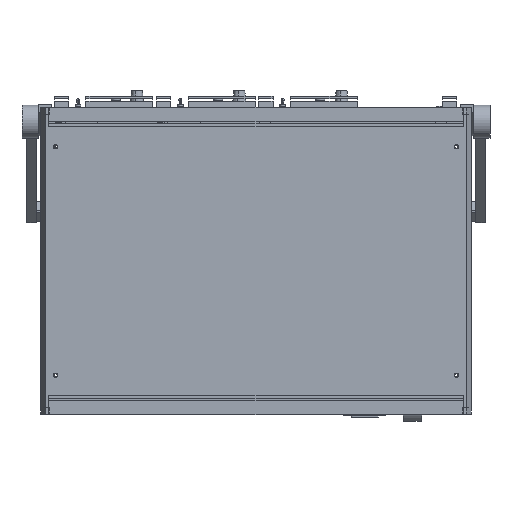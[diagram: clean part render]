
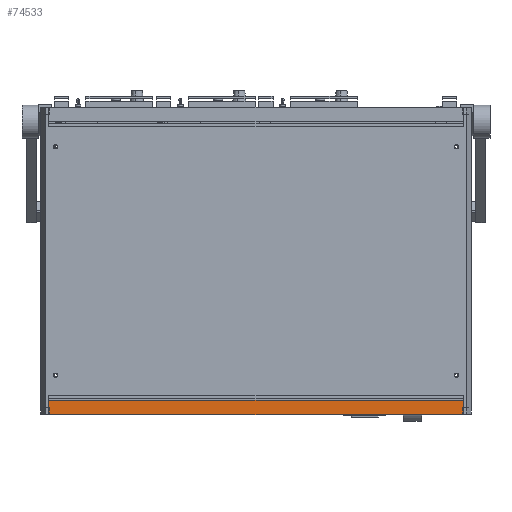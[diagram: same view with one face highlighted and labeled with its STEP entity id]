
A CAD part, front view. The second image highlights one B-rep face of the part: STEP entity #74533.
In plain terms, the highlighted planar face has unit normal (0, -1, 0).
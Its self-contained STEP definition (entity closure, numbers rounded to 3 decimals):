
#268 = LINE ( 'NONE', #5564, #35011 ) ;
#1250 = DIRECTION ( 'NONE',  ( 0., 0., -1. ) ) ;
#1421 = ORIENTED_EDGE ( 'NONE', *, *, #14936, .T. ) ;
#3805 = EDGE_LOOP ( 'NONE', ( #1421, #63859, #6439, #51679 ) ) ;
#5564 = CARTESIAN_POINT ( 'NONE',  ( -406.842, -69.981, 161.15 ) ) ;
#6439 = ORIENTED_EDGE ( 'NONE', *, *, #13671, .F. ) ;
#6963 = VERTEX_POINT ( 'NONE', #39667 ) ;
#10228 = VERTEX_POINT ( 'NONE', #26858 ) ;
#13671 = EDGE_CURVE ( 'NONE', #64309, #19557, #268, .T. ) ;
#14936 = EDGE_CURVE ( 'NONE', #6963, #10228, #82333, .T. ) ;
#15293 = DIRECTION ( 'NONE',  ( 0., 0., 1. ) ) ;
#19557 = VERTEX_POINT ( 'NONE', #45535 ) ;
#20498 = EDGE_CURVE ( 'NONE', #64309, #6963, #58409, .T. ) ;
#20920 = VECTOR ( 'NONE', #15293, 1000. ) ;
#26858 = CARTESIAN_POINT ( 'NONE',  ( 26.158, -69.981, 161.15 ) ) ;
#35011 = VECTOR ( 'NONE', #57760, 1000. ) ;
#35237 = CARTESIAN_POINT ( 'NONE',  ( -406.842, -69.981, 146.35 ) ) ;
#37602 = CARTESIAN_POINT ( 'NONE',  ( 26.158, -69.981, 161.15 ) ) ;
#38142 = CARTESIAN_POINT ( 'NONE',  ( -406.842, -69.981, 161.15 ) ) ;
#38609 = VECTOR ( 'NONE', #43681, 1000. ) ;
#39667 = CARTESIAN_POINT ( 'NONE',  ( 26.158, -69.981, 146.35 ) ) ;
#43358 = CARTESIAN_POINT ( 'NONE',  ( -406.842, -69.981, 146.35 ) ) ;
#43681 = DIRECTION ( 'NONE',  ( 1., 0., 0. ) ) ;
#45535 = CARTESIAN_POINT ( 'NONE',  ( -406.842, -69.981, 161.15 ) ) ;
#45668 = DIRECTION ( 'NONE',  ( 0., 1., 0. ) ) ;
#51679 = ORIENTED_EDGE ( 'NONE', *, *, #20498, .T. ) ;
#57760 = DIRECTION ( 'NONE',  ( 0., 0., 1. ) ) ;
#58409 = LINE ( 'NONE', #43358, #38609 ) ;
#63859 = ORIENTED_EDGE ( 'NONE', *, *, #89398, .F. ) ;
#63906 = LINE ( 'NONE', #84432, #83552 ) ;
#64309 = VERTEX_POINT ( 'NONE', #35237 ) ;
#74533 = ADVANCED_FACE ( 'NONE', ( #90922 ), #89944, .F. ) ;
#81873 = AXIS2_PLACEMENT_3D ( 'NONE', #38142, #45668, #1250 ) ;
#82333 = LINE ( 'NONE', #37602, #20920 ) ;
#83552 = VECTOR ( 'NONE', #91883, 1000. ) ;
#84432 = CARTESIAN_POINT ( 'NONE',  ( -406.842, -69.981, 161.15 ) ) ;
#89398 = EDGE_CURVE ( 'NONE', #19557, #10228, #63906, .T. ) ;
#89944 = PLANE ( 'NONE',  #81873 ) ;
#90922 = FACE_OUTER_BOUND ( 'NONE', #3805, .T. ) ;
#91883 = DIRECTION ( 'NONE',  ( 1., 0., 0. ) ) ;
